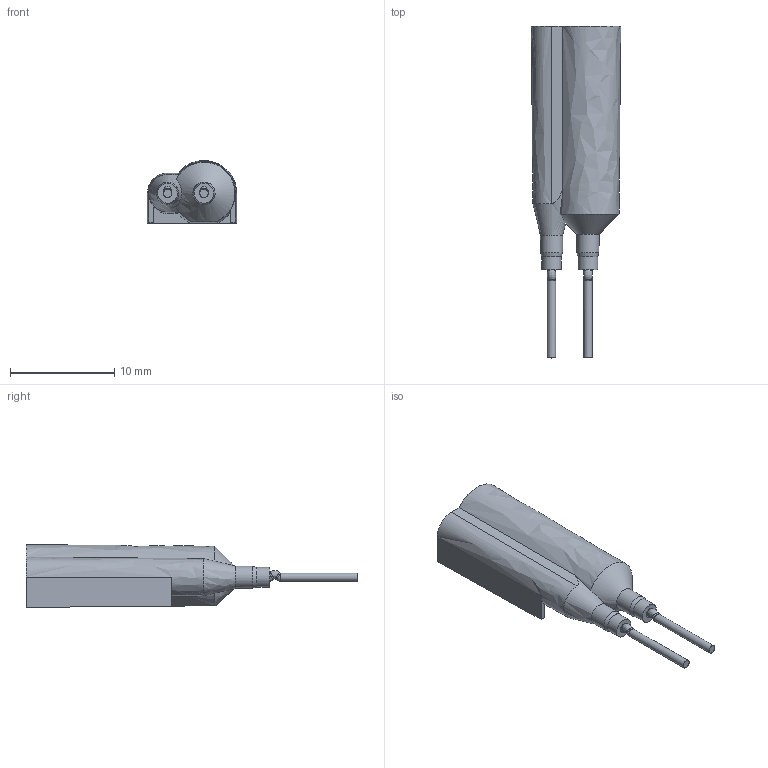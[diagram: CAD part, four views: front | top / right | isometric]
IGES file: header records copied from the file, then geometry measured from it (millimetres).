
Start section: C
Global section: file name: 01V-WCY-05.igs; native system: By Siemens PLM Incorporated; preprocessor: XPlus GENERIC/IGES 23.0.61; author: Author; organization: Title; date: 20230624.182044; units: millimetre
Bounding box: 8.59 x 31.9 x 6.03 mm (x, y, z)
Volume: 575.5 mm3; surface area: 1338.6 mm2
Topology: 2 solids, 2 shells, 63 faces, 166 edges, 96 vertices
Faces by surface type: bspline 63
